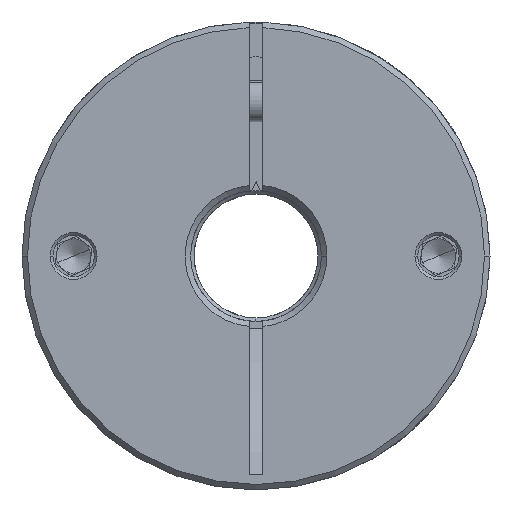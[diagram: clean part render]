
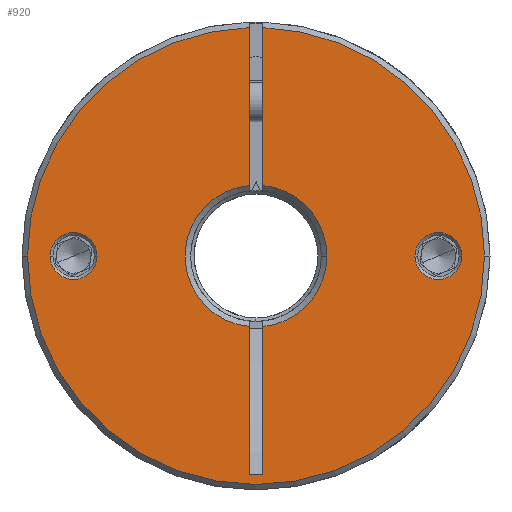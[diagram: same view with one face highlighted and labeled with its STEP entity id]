
A CAD part, front view. The second image highlights one B-rep face of the part: STEP entity #920.
In plain terms, the highlighted planar face has unit normal (0, -1, 0).
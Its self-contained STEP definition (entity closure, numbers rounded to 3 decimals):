
#30 = DIRECTION ( 'NONE',  ( 0., 0., -1. ) ) ;
#227 = VERTEX_POINT ( 'NONE', #10945 ) ;
#412 = EDGE_CURVE ( 'NONE', #7439, #6835, #2727, .T. ) ;
#448 = EDGE_CURVE ( 'NONE', #5904, #227, #3677, .T. ) ;
#456 = ORIENTED_EDGE ( 'NONE', *, *, #5722, .T. ) ;
#555 = DIRECTION ( 'NONE',  ( 1., 0., 0. ) ) ;
#676 = AXIS2_PLACEMENT_3D ( 'NONE', #7019, #7873, #555 ) ;
#755 = CIRCLE ( 'NONE', #6182, 10.3 ) ;
#771 = DIRECTION ( 'NONE',  ( 0., -1., 0. ) ) ;
#781 = EDGE_LOOP ( 'NONE', ( #2612, #456 ) ) ;
#821 = CARTESIAN_POINT ( 'NONE',  ( -3.735, -47.045, 68. ) ) ;
#831 = LINE ( 'NONE', #8222, #8522 ) ;
#920 = ADVANCED_FACE ( 'NONE', ( #8643, #2888, #1744 ), #5120, .T. ) ;
#1200 = ORIENTED_EDGE ( 'NONE', *, *, #1600, .T. ) ;
#1310 = VERTEX_POINT ( 'NONE', #11861 ) ;
#1388 = DIRECTION ( 'NONE',  ( 1., 0., 0. ) ) ;
#1554 = AXIS2_PLACEMENT_3D ( 'NONE', #7055, #771, #3104 ) ;
#1600 = EDGE_CURVE ( 'NONE', #12553, #3443, #831, .T. ) ;
#1649 = DIRECTION ( 'NONE',  ( 0., 1., 0. ) ) ;
#1721 = ORIENTED_EDGE ( 'NONE', *, *, #9507, .T. ) ;
#1741 = CARTESIAN_POINT ( 'NONE',  ( -1.735, -47.045, 57.749 ) ) ;
#1744 = FACE_OUTER_BOUND ( 'NONE', #5553, .T. ) ;
#1779 = CIRCLE ( 'NONE', #676, 33.2 ) ;
#1829 = EDGE_CURVE ( 'NONE', #9931, #11913, #12473, .T. ) ;
#1875 = EDGE_CURVE ( 'NONE', #2588, #13510, #8348, .T. ) ;
#1879 = AXIS2_PLACEMENT_3D ( 'NONE', #7652, #4599, #1388 ) ;
#2210 = CARTESIAN_POINT ( 'NONE',  ( -3.735, -47.045, 57.749 ) ) ;
#2230 = DIRECTION ( 'NONE',  ( 1., 0., 0. ) ) ;
#2321 = EDGE_CURVE ( 'NONE', #11998, #12553, #4689, .T. ) ;
#2333 = EDGE_CURVE ( 'NONE', #227, #5904, #4841, .T. ) ;
#2424 = CARTESIAN_POINT ( 'NONE',  ( -25.835, -47.045, 68. ) ) ;
#2436 = CARTESIAN_POINT ( 'NONE',  ( -1.735, -47.045, 68. ) ) ;
#2588 = VERTEX_POINT ( 'NONE', #2210 ) ;
#2612 = ORIENTED_EDGE ( 'NONE', *, *, #4459, .T. ) ;
#2691 = DIRECTION ( 'NONE',  ( 1., 0., 0. ) ) ;
#2698 = VERTEX_POINT ( 'NONE', #11845 ) ;
#2703 = CARTESIAN_POINT ( 'NONE',  ( -2.735, -47.045, 68. ) ) ;
#2727 = CIRCLE ( 'NONE', #8097, 33.2 ) ;
#2732 = DIRECTION ( 'NONE',  ( 0., 1., 0. ) ) ;
#2796 = DIRECTION ( 'NONE',  ( 0., 0., -1. ) ) ;
#2888 = FACE_BOUND ( 'NONE', #781, .T. ) ;
#3016 = ORIENTED_EDGE ( 'NONE', *, *, #3984, .T. ) ;
#3031 = ORIENTED_EDGE ( 'NONE', *, *, #2333, .T. ) ;
#3104 = DIRECTION ( 'NONE',  ( 1., 0., 0. ) ) ;
#3263 = ORIENTED_EDGE ( 'NONE', *, *, #1829, .T. ) ;
#3443 = VERTEX_POINT ( 'NONE', #12241 ) ;
#3465 = DIRECTION ( 'NONE',  ( 0., 0., -1. ) ) ;
#3476 = CARTESIAN_POINT ( 'NONE',  ( -35.935, -47.045, 68. ) ) ;
#3598 = AXIS2_PLACEMENT_3D ( 'NONE', #10626, #12828, #4283 ) ;
#3677 = CIRCLE ( 'NONE', #3598, 3.4 ) ;
#3847 = CIRCLE ( 'NONE', #9945, 33.2 ) ;
#3984 = EDGE_CURVE ( 'NONE', #2698, #7439, #3847, .T. ) ;
#4151 = EDGE_CURVE ( 'NONE', #4729, #11998, #755, .T. ) ;
#4174 = DIRECTION ( 'NONE',  ( 0., 1., 0. ) ) ;
#4283 = DIRECTION ( 'NONE',  ( 1., 0., 0. ) ) ;
#4459 = EDGE_CURVE ( 'NONE', #7693, #1310, #11573, .T. ) ;
#4599 = DIRECTION ( 'NONE',  ( 0., 1., 0. ) ) ;
#4689 = LINE ( 'NONE', #9751, #5505 ) ;
#4729 = VERTEX_POINT ( 'NONE', #9012 ) ;
#4762 = ORIENTED_EDGE ( 'NONE', *, *, #2321, .T. ) ;
#4782 = CIRCLE ( 'NONE', #7987, 3.4 ) ;
#4841 = CIRCLE ( 'NONE', #11602, 3.4 ) ;
#4924 = LINE ( 'NONE', #821, #6099 ) ;
#5120 = PLANE ( 'NONE',  #1554 ) ;
#5259 = ORIENTED_EDGE ( 'NONE', *, *, #12022, .F. ) ;
#5358 = CARTESIAN_POINT ( 'NONE',  ( -3.735, -47.045, 78.251 ) ) ;
#5505 = VECTOR ( 'NONE', #3465, 1000. ) ;
#5553 = EDGE_LOOP ( 'NONE', ( #5259, #3016, #9310, #1721, #3263, #10810, #10799, #4762, #1200, #7284, #9730 ) ) ;
#5630 = CARTESIAN_POINT ( 'NONE',  ( -1.735, -47.045, 78.251 ) ) ;
#5684 = CARTESIAN_POINT ( 'NONE',  ( 23.765, -47.045, 68. ) ) ;
#5722 = EDGE_CURVE ( 'NONE', #1310, #7693, #4782, .T. ) ;
#5904 = VERTEX_POINT ( 'NONE', #6139 ) ;
#6041 = DIRECTION ( 'NONE',  ( 1., 0., 0. ) ) ;
#6099 = VECTOR ( 'NONE', #2796, 1000. ) ;
#6139 = CARTESIAN_POINT ( 'NONE',  ( 27.165, -47.045, 68. ) ) ;
#6182 = AXIS2_PLACEMENT_3D ( 'NONE', #2703, #6853, #12227 ) ;
#6434 = CARTESIAN_POINT ( 'NONE',  ( -3.735, -47.045, 68. ) ) ;
#6645 = EDGE_CURVE ( 'NONE', #11913, #4729, #8076, .T. ) ;
#6820 = DIRECTION ( 'NONE',  ( 1., 0., 0. ) ) ;
#6835 = VERTEX_POINT ( 'NONE', #9390 ) ;
#6853 = DIRECTION ( 'NONE',  ( 0., 1., 0. ) ) ;
#7019 = CARTESIAN_POINT ( 'NONE',  ( -2.735, -47.045, 68. ) ) ;
#7055 = CARTESIAN_POINT ( 'NONE',  ( -2.735, -47.045, 68. ) ) ;
#7113 = EDGE_LOOP ( 'NONE', ( #8291, #3031 ) ) ;
#7254 = CARTESIAN_POINT ( 'NONE',  ( -2.735, -47.045, 68. ) ) ;
#7284 = ORIENTED_EDGE ( 'NONE', *, *, #8264, .F. ) ;
#7439 = VERTEX_POINT ( 'NONE', #3476 ) ;
#7652 = CARTESIAN_POINT ( 'NONE',  ( -2.735, -47.045, 68. ) ) ;
#7693 = VERTEX_POINT ( 'NONE', #2424 ) ;
#7873 = DIRECTION ( 'NONE',  ( 0., -1., 0. ) ) ;
#7987 = AXIS2_PLACEMENT_3D ( 'NONE', #12365, #2732, #6041 ) ;
#8076 = CIRCLE ( 'NONE', #10006, 10.3 ) ;
#8097 = AXIS2_PLACEMENT_3D ( 'NONE', #7254, #10536, #8428 ) ;
#8135 = CARTESIAN_POINT ( 'NONE',  ( -1.735, -47.045, 101.185 ) ) ;
#8193 = LINE ( 'NONE', #6434, #12790 ) ;
#8222 = CARTESIAN_POINT ( 'NONE',  ( -3.735, -47.045, 36.279 ) ) ;
#8264 = EDGE_CURVE ( 'NONE', #2588, #3443, #8193, .T. ) ;
#8291 = ORIENTED_EDGE ( 'NONE', *, *, #448, .T. ) ;
#8348 = CIRCLE ( 'NONE', #1879, 10.3 ) ;
#8428 = DIRECTION ( 'NONE',  ( 1., 0., 0. ) ) ;
#8522 = VECTOR ( 'NONE', #13546, 1000. ) ;
#8643 = FACE_BOUND ( 'NONE', #7113, .T. ) ;
#8930 = DIRECTION ( 'NONE',  ( 0., 1., 0. ) ) ;
#9012 = CARTESIAN_POINT ( 'NONE',  ( 7.565, -47.045, 68. ) ) ;
#9310 = ORIENTED_EDGE ( 'NONE', *, *, #412, .T. ) ;
#9390 = CARTESIAN_POINT ( 'NONE',  ( 30.465, -47.045, 68. ) ) ;
#9507 = EDGE_CURVE ( 'NONE', #6835, #9931, #1779, .T. ) ;
#9730 = ORIENTED_EDGE ( 'NONE', *, *, #1875, .T. ) ;
#9751 = CARTESIAN_POINT ( 'NONE',  ( -1.735, -47.045, 68. ) ) ;
#9931 = VERTEX_POINT ( 'NONE', #8135 ) ;
#9945 = AXIS2_PLACEMENT_3D ( 'NONE', #12740, #11680, #2230 ) ;
#10006 = AXIS2_PLACEMENT_3D ( 'NONE', #10949, #8930, #2691 ) ;
#10470 = DIRECTION ( 'NONE',  ( 1., 0., 0. ) ) ;
#10536 = DIRECTION ( 'NONE',  ( 0., -1., 0. ) ) ;
#10626 = CARTESIAN_POINT ( 'NONE',  ( 23.765, -47.045, 68. ) ) ;
#10799 = ORIENTED_EDGE ( 'NONE', *, *, #4151, .T. ) ;
#10810 = ORIENTED_EDGE ( 'NONE', *, *, #6645, .T. ) ;
#10945 = CARTESIAN_POINT ( 'NONE',  ( 20.365, -47.045, 68. ) ) ;
#10949 = CARTESIAN_POINT ( 'NONE',  ( -2.735, -47.045, 68. ) ) ;
#11573 = CIRCLE ( 'NONE', #12454, 3.4 ) ;
#11602 = AXIS2_PLACEMENT_3D ( 'NONE', #5684, #1649, #6820 ) ;
#11680 = DIRECTION ( 'NONE',  ( 0., -1., 0. ) ) ;
#11845 = CARTESIAN_POINT ( 'NONE',  ( -3.735, -47.045, 101.185 ) ) ;
#11856 = CARTESIAN_POINT ( 'NONE',  ( -1.735, -47.045, 36.279 ) ) ;
#11861 = CARTESIAN_POINT ( 'NONE',  ( -32.635, -47.045, 68. ) ) ;
#11913 = VERTEX_POINT ( 'NONE', #5630 ) ;
#11998 = VERTEX_POINT ( 'NONE', #1741 ) ;
#12022 = EDGE_CURVE ( 'NONE', #2698, #13510, #4924, .T. ) ;
#12227 = DIRECTION ( 'NONE',  ( 1., 0., 0. ) ) ;
#12241 = CARTESIAN_POINT ( 'NONE',  ( -3.735, -47.045, 36.279 ) ) ;
#12365 = CARTESIAN_POINT ( 'NONE',  ( -29.235, -47.045, 68. ) ) ;
#12454 = AXIS2_PLACEMENT_3D ( 'NONE', #13552, #4174, #10470 ) ;
#12473 = LINE ( 'NONE', #2436, #13601 ) ;
#12553 = VERTEX_POINT ( 'NONE', #11856 ) ;
#12740 = CARTESIAN_POINT ( 'NONE',  ( -2.735, -47.045, 68. ) ) ;
#12790 = VECTOR ( 'NONE', #30, 1000. ) ;
#12828 = DIRECTION ( 'NONE',  ( 0., 1., 0. ) ) ;
#12971 = DIRECTION ( 'NONE',  ( 0., 0., -1. ) ) ;
#13510 = VERTEX_POINT ( 'NONE', #5358 ) ;
#13546 = DIRECTION ( 'NONE',  ( -1., 0., 0. ) ) ;
#13552 = CARTESIAN_POINT ( 'NONE',  ( -29.235, -47.045, 68. ) ) ;
#13601 = VECTOR ( 'NONE', #12971, 1000. ) ;
